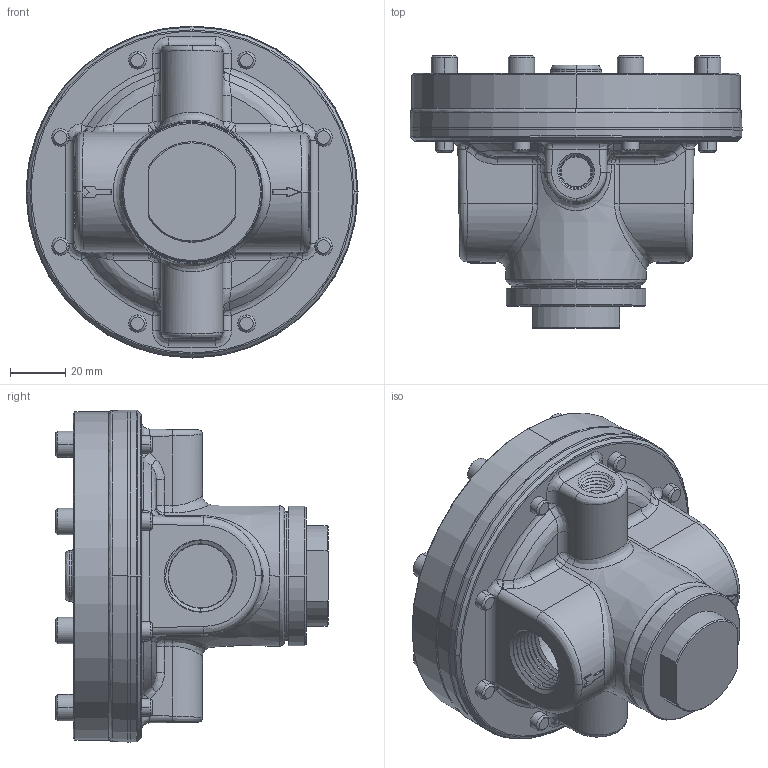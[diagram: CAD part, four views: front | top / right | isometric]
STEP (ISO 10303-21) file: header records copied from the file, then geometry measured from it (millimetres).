
FILE_DESCRIPTION (( 'STEP AP203' ), '1' );
FILE_NAME ('4GDR-6BSPT-PO.STEP', '2013-03-14T15:24:19', ( '' ), ( '' ), 'SwSTEP 2.0', 'SolidWorks 2011', '' );
FILE_SCHEMA (( 'CONFIG_CONTROL_DESIGN' ));
Length unit declared in the file: inch
Products named in the file (2): Part3^4GDR-750B-PO_CM; 4GDR-6BSPT-PO
Assembly tree (1 placements, depth 2):
  4GDR-6BSPT-PO
    Part3^4GDR-750B-PO_CM
Bounding box: 120.14 x 98.67 x 120.14 mm (x, y, z)
Volume: 484469.2 mm3; surface area: 55897.9 mm2
Topology: 1 solids, 1 shells, 745 faces, 1760 edges, 1026 vertices
Faces by surface type: cone 343, plane 160, cylinder 122, bspline 120
Entity records: 26993 total; most frequent: CARTESIAN_POINT 10268, DIRECTION 3563, ORIENTED_EDGE 3470, EDGE_CURVE 1735, AXIS2_PLACEMENT_3D 1426, VERTEX_POINT 1026, CIRCLE 797, EDGE_LOOP 779
